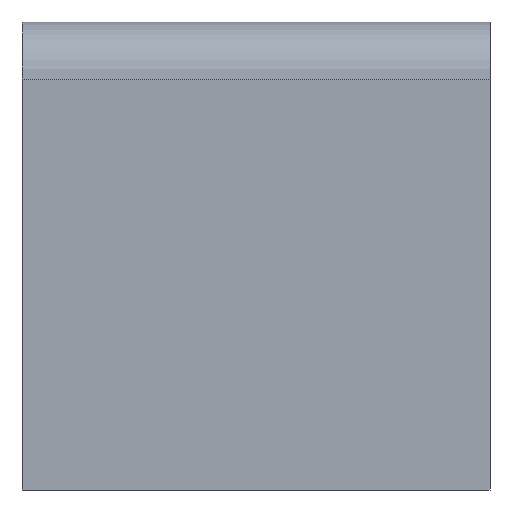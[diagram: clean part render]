
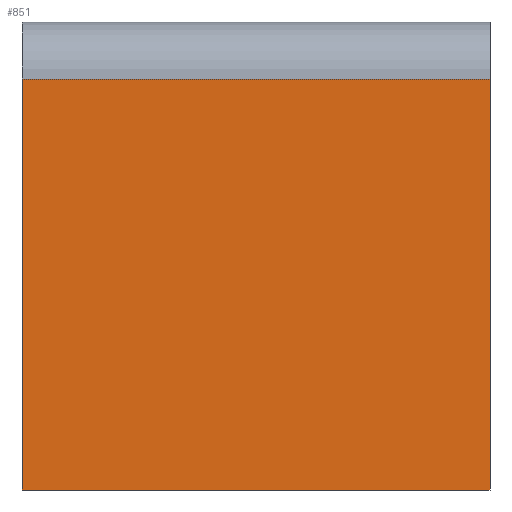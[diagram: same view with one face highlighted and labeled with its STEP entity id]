
A CAD part, left-side view. The second image highlights one B-rep face of the part: STEP entity #851.
In plain terms, the highlighted planar face has unit normal (-1, 0, 0).
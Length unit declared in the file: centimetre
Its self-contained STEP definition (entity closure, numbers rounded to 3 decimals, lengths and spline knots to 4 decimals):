
#2 = ORIENTED_EDGE ( 'NONE', *, *, #743, .T. ) ;
#66 = DIRECTION ( 'NONE',  ( 0., 0., -1. ) ) ;
#108 = FACE_OUTER_BOUND ( 'NONE', #327, .T. ) ;
#123 = CARTESIAN_POINT ( 'NONE',  ( 0., 1000., 0. ) ) ;
#163 = VERTEX_POINT ( 'NONE', #303 ) ;
#185 = LINE ( 'NONE', #945, #917 ) ;
#195 = VECTOR ( 'NONE', #1138, 100. ) ;
#279 = VERTEX_POINT ( 'NONE', #1075 ) ;
#303 = CARTESIAN_POINT ( 'NONE',  ( 0., 1000., 878.0916 ) ) ;
#327 = EDGE_LOOP ( 'NONE', ( #517, #1004, #2, #1239 ) ) ;
#365 = LINE ( 'NONE', #456, #195 ) ;
#422 = DIRECTION ( 'NONE',  ( 0., 0., -1. ) ) ;
#444 = EDGE_CURVE ( 'NONE', #1212, #163, #185, .T. ) ;
#456 = CARTESIAN_POINT ( 'NONE',  ( 0., 1000., 1000. ) ) ;
#496 = PLANE ( 'NONE',  #1208 ) ;
#515 = DIRECTION ( 'NONE',  ( 1., 0., 0. ) ) ;
#517 = ORIENTED_EDGE ( 'NONE', *, *, #788, .F. ) ;
#557 = VECTOR ( 'NONE', #66, 100. ) ;
#563 = VECTOR ( 'NONE', #613, 100. ) ;
#613 = DIRECTION ( 'NONE',  ( 0., -1., 0. ) ) ;
#743 = EDGE_CURVE ( 'NONE', #163, #279, #365, .T. ) ;
#757 = LINE ( 'NONE', #1144, #557 ) ;
#761 = DIRECTION ( 'NONE',  ( 0., 1., 0. ) ) ;
#788 = EDGE_CURVE ( 'NONE', #1212, #919, #757, .T. ) ;
#851 = ADVANCED_FACE ( 'NONE', ( #108 ), #496, .F. ) ;
#889 = EDGE_CURVE ( 'NONE', #279, #919, #1064, .T. ) ;
#917 = VECTOR ( 'NONE', #761, 100. ) ;
#919 = VERTEX_POINT ( 'NONE', #1079 ) ;
#945 = CARTESIAN_POINT ( 'NONE',  ( 0., 1000., 878.0916 ) ) ;
#957 = CARTESIAN_POINT ( 'NONE',  ( 0., 0., 878.0916 ) ) ;
#982 = CARTESIAN_POINT ( 'NONE',  ( 0., 1000., 1000. ) ) ;
#1004 = ORIENTED_EDGE ( 'NONE', *, *, #444, .T. ) ;
#1064 = LINE ( 'NONE', #123, #563 ) ;
#1075 = CARTESIAN_POINT ( 'NONE',  ( 0., 1000., 0. ) ) ;
#1079 = CARTESIAN_POINT ( 'NONE',  ( 0., 0., 0. ) ) ;
#1138 = DIRECTION ( 'NONE',  ( 0., 0., -1. ) ) ;
#1144 = CARTESIAN_POINT ( 'NONE',  ( 0., 0., 1000. ) ) ;
#1208 = AXIS2_PLACEMENT_3D ( 'NONE', #982, #515, #422 ) ;
#1212 = VERTEX_POINT ( 'NONE', #957 ) ;
#1239 = ORIENTED_EDGE ( 'NONE', *, *, #889, .T. ) ;
